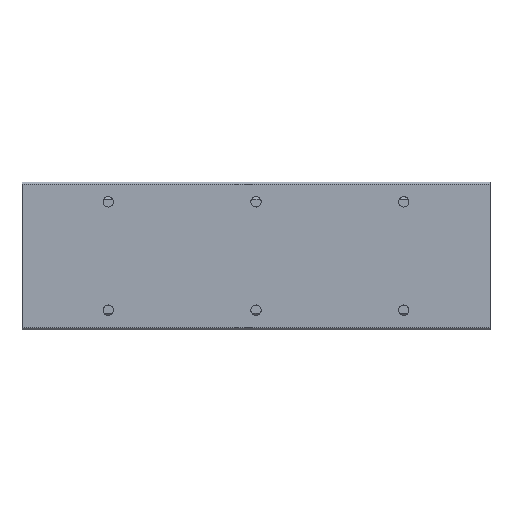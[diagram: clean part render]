
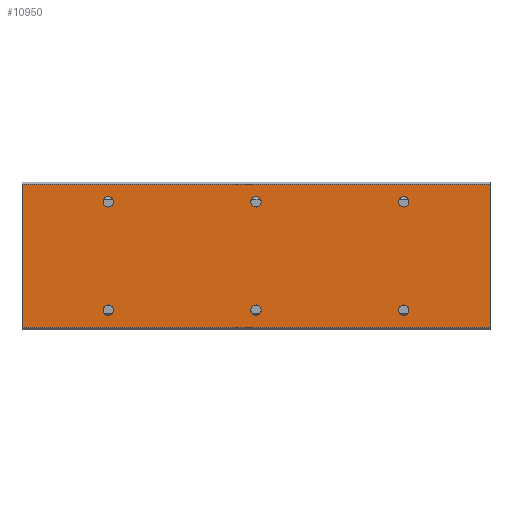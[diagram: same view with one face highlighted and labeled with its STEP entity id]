
A CAD part, front view. The second image highlights one B-rep face of the part: STEP entity #10950.
In plain terms, the highlighted planar face has unit normal (0, -1, 0).
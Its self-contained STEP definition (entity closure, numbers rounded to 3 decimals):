
#414=CIRCLE('',#11603,1.057);
#415=CIRCLE('',#11608,1.057);
#416=CIRCLE('',#11613,1.057);
#426=CIRCLE('',#11629,1.057);
#427=CIRCLE('',#11634,1.057);
#428=CIRCLE('',#11639,1.057);
#1603=ORIENTED_EDGE('',*,*,#4509,.F.);
#1604=ORIENTED_EDGE('',*,*,#4505,.F.);
#1605=ORIENTED_EDGE('',*,*,#4501,.F.);
#1606=ORIENTED_EDGE('',*,*,#4481,.F.);
#1607=ORIENTED_EDGE('',*,*,#4477,.F.);
#1608=ORIENTED_EDGE('',*,*,#4473,.F.);
#1609=ORIENTED_EDGE('',*,*,#4448,.T.);
#1610=ORIENTED_EDGE('',*,*,#4905,.F.);
#1611=ORIENTED_EDGE('',*,*,#4431,.F.);
#1612=ORIENTED_EDGE('',*,*,#4904,.T.);
#4431=EDGE_CURVE('',#6093,#6094,#7229,.T.);
#4448=EDGE_CURVE('',#6111,#6110,#7246,.T.);
#4473=EDGE_CURVE('',#6131,#6131,#414,.T.);
#4477=EDGE_CURVE('',#6134,#6134,#415,.T.);
#4481=EDGE_CURVE('',#6137,#6137,#416,.T.);
#4501=EDGE_CURVE('',#6152,#6152,#426,.T.);
#4505=EDGE_CURVE('',#6155,#6155,#427,.T.);
#4509=EDGE_CURVE('',#6158,#6158,#428,.T.);
#4904=EDGE_CURVE('',#6093,#6111,#7412,.T.);
#4905=EDGE_CURVE('',#6094,#6110,#7413,.T.);
#6093=VERTEX_POINT('',#16570);
#6094=VERTEX_POINT('',#16572);
#6110=VERTEX_POINT('',#16605);
#6111=VERTEX_POINT('',#16607);
#6131=VERTEX_POINT('',#16655);
#6134=VERTEX_POINT('',#16663);
#6137=VERTEX_POINT('',#16671);
#6152=VERTEX_POINT('',#16709);
#6155=VERTEX_POINT('',#16717);
#6158=VERTEX_POINT('',#16725);
#7229=LINE('',#16571,#8193);
#7246=LINE('',#16606,#8210);
#7412=LINE('',#17513,#8376);
#7413=LINE('',#17515,#8377);
#8193=VECTOR('',#12940,1000.);
#8210=VECTOR('',#12959,1000.);
#8376=VECTOR('',#13731,1000.);
#8377=VECTOR('',#13734,1000.);
#9195=EDGE_LOOP('',(#1603));
#9196=EDGE_LOOP('',(#1604));
#9197=EDGE_LOOP('',(#1605));
#9198=EDGE_LOOP('',(#1606));
#9199=EDGE_LOOP('',(#1607));
#9200=EDGE_LOOP('',(#1608));
#9201=EDGE_LOOP('',(#1609,#1610,#1611,#1612));
#9957=FACE_BOUND('',#9195,.T.);
#9958=FACE_BOUND('',#9196,.T.);
#9959=FACE_BOUND('',#9197,.T.);
#9960=FACE_BOUND('',#9198,.T.);
#9961=FACE_BOUND('',#9199,.T.);
#9962=FACE_BOUND('',#9200,.T.);
#9963=FACE_BOUND('',#9201,.T.);
#10674=PLANE('',#11900);
#10950=ADVANCED_FACE('',(#9957,#9958,#9959,#9960,#9961,#9962,#9963),#10674,
 .F.);
#11603=AXIS2_PLACEMENT_3D('',#16654,#12993,#12994);
#11608=AXIS2_PLACEMENT_3D('',#16662,#13003,#13004);
#11613=AXIS2_PLACEMENT_3D('',#16670,#13013,#13014);
#11629=AXIS2_PLACEMENT_3D('',#16708,#13052,#13053);
#11634=AXIS2_PLACEMENT_3D('',#16716,#13062,#13063);
#11639=AXIS2_PLACEMENT_3D('',#16724,#13072,#13073);
#11900=AXIS2_PLACEMENT_3D('',#17514,#13732,#13733);
#12940=DIRECTION('',(0.,0.,-1.));
#12959=DIRECTION('',(0.,0.,-1.));
#12993=DIRECTION('',(0.,-1.,0.));
#12994=DIRECTION('',(0.,0.,-1.));
#13003=DIRECTION('',(0.,-1.,0.));
#13004=DIRECTION('',(0.,0.,-1.));
#13013=DIRECTION('',(0.,-1.,0.));
#13014=DIRECTION('',(0.,0.,-1.));
#13052=DIRECTION('',(0.,-1.,0.));
#13053=DIRECTION('',(0.,0.,-1.));
#13062=DIRECTION('',(0.,-1.,0.));
#13063=DIRECTION('',(0.,0.,-1.));
#13072=DIRECTION('',(0.,-1.,0.));
#13073=DIRECTION('',(0.,0.,-1.));
#13731=DIRECTION('',(-1.,0.,0.));
#13732=DIRECTION('',(0.,1.,0.));
#13733=DIRECTION('',(0.,0.,1.));
#13734=DIRECTION('',(-1.,0.,0.));
#16570=CARTESIAN_POINT('',(95.,0.,14.55));
#16571=CARTESIAN_POINT('',(95.,0.,14.55));
#16572=CARTESIAN_POINT('',(95.,0.,-14.55));
#16605=CARTESIAN_POINT('',(0.,0.,-14.55));
#16606=CARTESIAN_POINT('',(0.,0.,14.55));
#16607=CARTESIAN_POINT('',(0.,0.,14.55));
#16654=CARTESIAN_POINT('',(17.5,0.,-11.));
#16655=CARTESIAN_POINT('',(17.5,0.,-12.057));
#16662=CARTESIAN_POINT('',(77.5,0.,-11.));
#16663=CARTESIAN_POINT('',(77.5,0.,-12.057));
#16670=CARTESIAN_POINT('',(47.5,0.,-11.));
#16671=CARTESIAN_POINT('',(47.5,0.,-12.057));
#16708=CARTESIAN_POINT('',(17.5,0.,11.));
#16709=CARTESIAN_POINT('',(17.5,0.,9.944));
#16716=CARTESIAN_POINT('',(77.5,0.,11.));
#16717=CARTESIAN_POINT('',(77.5,0.,9.944));
#16724=CARTESIAN_POINT('',(47.5,0.,11.));
#16725=CARTESIAN_POINT('',(47.5,0.,9.944));
#17513=CARTESIAN_POINT('',(95.,0.,14.55));
#17514=CARTESIAN_POINT('',(95.,0.,14.55));
#17515=CARTESIAN_POINT('',(95.,0.,-14.55));
